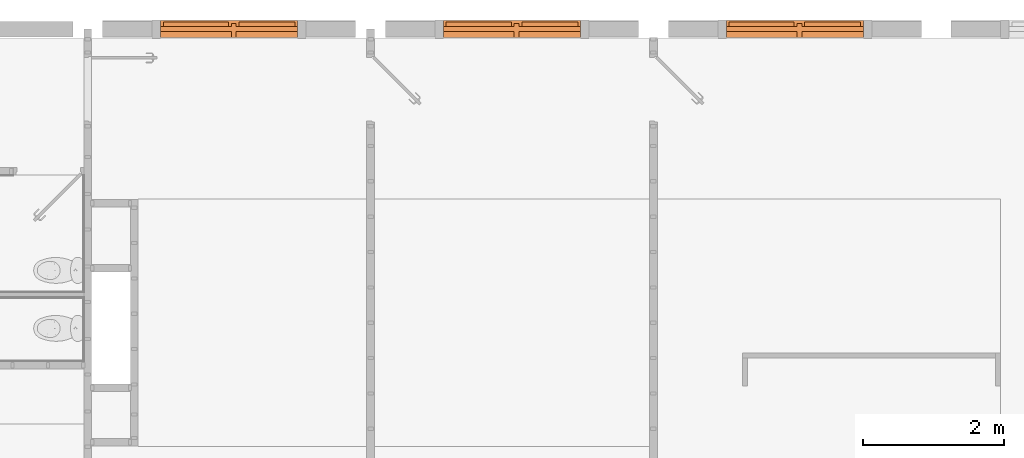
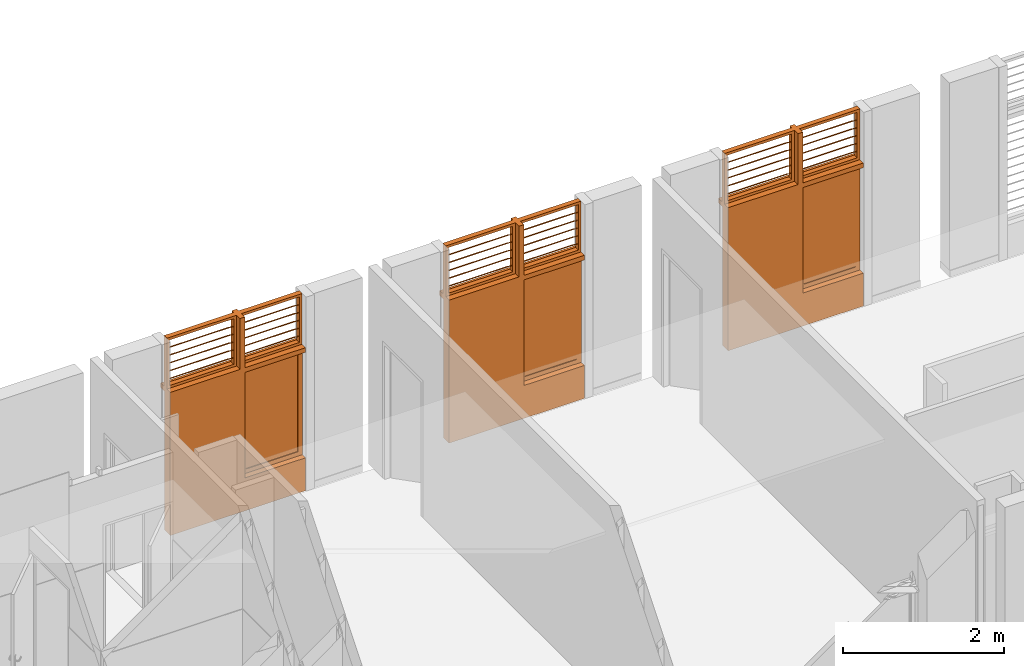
# One storey, part 13 of 15: 3 proxies.
"""IFC2X3 building model written with IfcOpenShell, lengths in metres."""

from ifc_helpers import new_model, entity, si_unit, converted_unit, derived_unit, direction, frame, origin, place, context, subcontext, project, spatial, faceted_brep, source, transform, mapped, material, material_list, type_object, type_shapes, element, save


model = new_model("IFC2X3")

# Units and contexts
model_context = context("Model", 3, precision=1e-05, world=origin(), true_north=direction((6.12303176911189e-17, 1.0)))
body_context = subcontext(model_context, "Body", "Model", "MODEL_VIEW")
ifc_project = project(units=[si_unit("LENGTHUNIT", "METRE"), si_unit("AREAUNIT", "SQUARE_METRE"), si_unit("VOLUMEUNIT", "CUBIC_METRE"), converted_unit("PLANEANGLEUNIT", "DEGREE", entity("IfcRatioMeasure", 0.0174532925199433), si_unit("PLANEANGLEUNIT", "RADIAN"), dimensions=[0, 0, 0, 0, 0, 0, 0]), si_unit("MASSUNIT", "GRAM", prefix="KILO"), derived_unit("MASSDENSITYUNIT", [(si_unit("MASSUNIT", "GRAM", prefix="KILO"), 1), (si_unit("LENGTHUNIT", "METRE"), -3)]), si_unit("TIMEUNIT", "SECOND"), si_unit("FREQUENCYUNIT", "HERTZ"), si_unit("THERMODYNAMICTEMPERATUREUNIT", "DEGREE_CELSIUS"), derived_unit("THERMALTRANSMITTANCEUNIT", [(si_unit("MASSUNIT", "GRAM", prefix="KILO"), 1), (si_unit("THERMODYNAMICTEMPERATUREUNIT", "KELVIN"), -1), (si_unit("TIMEUNIT", "SECOND"), -3)]), derived_unit("VOLUMETRICFLOWRATEUNIT", [(si_unit("LENGTHUNIT", "METRE"), 3), (si_unit("TIMEUNIT", "SECOND"), -1)]), si_unit("ELECTRICCURRENTUNIT", "AMPERE"), si_unit("ELECTRICVOLTAGEUNIT", "VOLT"), si_unit("POWERUNIT", "WATT"), si_unit("FORCEUNIT", "NEWTON", prefix="KILO"), si_unit("ILLUMINANCEUNIT", "LUX"), si_unit("LUMINOUSFLUXUNIT", "LUMEN"), si_unit("LUMINOUSINTENSITYUNIT", "CANDELA"), derived_unit("USERDEFINED", [(si_unit("MASSUNIT", "GRAM", prefix="KILO"), -1), (si_unit("LENGTHUNIT", "METRE"), -2), (si_unit("TIMEUNIT", "SECOND"), 3), (si_unit("LUMINOUSFLUXUNIT", "LUMEN"), 1)]), derived_unit("LINEARVELOCITYUNIT", [(si_unit("LENGTHUNIT", "METRE"), 1), (si_unit("TIMEUNIT", "SECOND"), -1)]), si_unit("PRESSUREUNIT", "PASCAL"), derived_unit("USERDEFINED", [(si_unit("LENGTHUNIT", "METRE"), -2), (si_unit("MASSUNIT", "GRAM", prefix="KILO"), 1), (si_unit("TIMEUNIT", "SECOND"), -2)])], contexts=[model_context])

# Site, building, storey
site_placement = place(None, origin())
site = spatial("IfcSite", under=ifc_project, at=site_placement, Name="Surface", CompositionType="ELEMENT")
building_placement = place(site_placement, origin())
building = spatial("IfcBuilding", under=site, at=building_placement, Name="ExPREF", CompositionType="ELEMENT")
storey_placement = place(building_placement, frame((0.0, 0.0, 7.83)))
storey = spatial("IfcBuildingStorey", under=building, at=storey_placement, Name="R+2", CompositionType="ELEMENT", Elevation=7.83)

# Proxies
ifc_material_1 = material(Name="AA-Aluminium")
ifc_material_2 = material(Name="AA-vitrage")
ifc_material_3 = material(Name="AA-bois menuiseries")
ifc_material_list_1 = material_list([ifc_material_1, ifc_material_2, ifc_material_3])
ifc_material_list_2 = material_list([ifc_material_1, ifc_material_2, ifc_material_3])
building_element_proxy_type = type_object("IfcBuildingElementProxyType", Name="R+2 porte + fenetre", PredefinedType="NOTDEFINED", material=ifc_material_list_2)
shared_shape = source(origin(), body_context, "Body", "Brep", [
    faceted_brep([(0.139999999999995, 0.113917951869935, 2.87840538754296), (0.139999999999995, 0.0970656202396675, 2.89020551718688), (0.139999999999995, 0.101483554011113, 2.89651498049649), (0.139999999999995, 0.11833588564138, 2.88471485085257), (0.930000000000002, 0.113917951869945, 2.87840538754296), (0.930000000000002, 0.118335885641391, 2.88471485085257), (0.930000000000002, 0.101483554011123, 2.89651498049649), (0.930000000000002, 0.0970656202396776, 2.89020551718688)], [[[0, 1, 2, 3]], [[4, 5, 6, 7]], [[1, 0, 4, 7]], [[2, 1, 7, 6]], [[3, 2, 6, 5]], [[0, 3, 5, 4]]]),
    faceted_brep([(0.139999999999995, 0.114720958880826, 2.87955220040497), (0.139999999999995, 0.117588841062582, 2.88364796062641), (0.139999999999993, 0.223609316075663, 2.80941162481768), (0.139999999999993, 0.220741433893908, 2.80531586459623), (0.930000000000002, 0.114720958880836, 2.87955220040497), (0.93, 0.220741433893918, 2.80531586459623), (0.93, 0.223609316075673, 2.80941162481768), (0.930000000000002, 0.117588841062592, 2.88364796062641)], [[[0, 1, 2, 3]], [[4, 5, 6, 7]], [[1, 0, 4, 7]], [[2, 1, 7, 6]], [[3, 2, 6, 5]], [[0, 3, 5, 4]]]),
    faceted_brep([(-0.930000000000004, 0.113917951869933, 2.87840538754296), (-0.930000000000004, 0.097065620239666, 2.89020551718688), (-0.930000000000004, 0.101483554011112, 2.89651498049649), (-0.930000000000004, 0.118335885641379, 2.88471485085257), (-0.00999999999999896, 0.113917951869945, 2.87840538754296), (-0.00999999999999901, 0.118335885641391, 2.88471485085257), (-0.0099999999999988, 0.101483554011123, 2.89651498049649), (-0.00999999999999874, 0.0970656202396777, 2.89020551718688)], [[[0, 1, 2, 3]], [[4, 5, 6, 7]], [[1, 0, 4, 7]], [[2, 1, 7, 6]], [[3, 2, 6, 5]], [[0, 3, 5, 4]]]),
    faceted_brep([(-0.930000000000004, 0.114720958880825, 2.87955220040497), (-0.930000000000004, 0.11758884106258, 2.88364796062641), (-0.930000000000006, 0.223609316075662, 2.80941162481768), (-0.930000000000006, 0.220741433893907, 2.80531586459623), (-0.00999999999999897, 0.114720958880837, 2.87955220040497), (-0.0100000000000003, 0.220741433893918, 2.80531586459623), (-0.0100000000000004, 0.223609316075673, 2.80941162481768), (-0.009999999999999, 0.117588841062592, 2.88364796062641)], [[[0, 1, 2, 3]], [[4, 5, 6, 7]], [[1, 0, 4, 7]], [[2, 1, 7, 6]], [[3, 2, 6, 5]], [[0, 3, 5, 4]]]),
    faceted_brep([(0.139999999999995, 0.113917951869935, 2.75940538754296), (0.139999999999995, 0.0970656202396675, 2.77120551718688), (0.139999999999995, 0.101483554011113, 2.77751498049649), (0.139999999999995, 0.11833588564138, 2.76571485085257), (0.930000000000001, 0.113917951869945, 2.75940538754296), (0.930000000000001, 0.118335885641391, 2.76571485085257), (0.930000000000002, 0.101483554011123, 2.77751498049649), (0.930000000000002, 0.0970656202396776, 2.77120551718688)], [[[0, 1, 2, 3]], [[4, 5, 6, 7]], [[1, 0, 4, 7]], [[2, 1, 7, 6]], [[3, 2, 6, 5]], [[0, 3, 5, 4]]]),
    faceted_brep([(0.139999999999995, 0.114720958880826, 2.76055220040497), (0.139999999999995, 0.117588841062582, 2.76464796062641), (0.139999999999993, 0.223609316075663, 2.69041162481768), (0.139999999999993, 0.220741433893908, 2.68631586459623), (0.930000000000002, 0.114720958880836, 2.76055220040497), (0.93, 0.220741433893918, 2.68631586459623), (0.93, 0.223609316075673, 2.69041162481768), (0.930000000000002, 0.117588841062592, 2.76464796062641)], [[[0, 1, 2, 3]], [[4, 5, 6, 7]], [[1, 0, 4, 7]], [[2, 1, 7, 6]], [[3, 2, 6, 5]], [[0, 3, 5, 4]]]),
    faceted_brep([(-0.930000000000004, 0.113917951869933, 2.75940538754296), (-0.930000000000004, 0.097065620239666, 2.77120551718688), (-0.930000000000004, 0.101483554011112, 2.77751498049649), (-0.930000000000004, 0.118335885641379, 2.76571485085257), (-0.00999999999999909, 0.113917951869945, 2.75940538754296), (-0.00999999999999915, 0.118335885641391, 2.76571485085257), (-0.00999999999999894, 0.101483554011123, 2.77751498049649), (-0.00999999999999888, 0.0970656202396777, 2.77120551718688)], [[[0, 1, 2, 3]], [[4, 5, 6, 7]], [[1, 0, 4, 7]], [[2, 1, 7, 6]], [[3, 2, 6, 5]], [[0, 3, 5, 4]]]),
    faceted_brep([(-0.930000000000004, 0.114720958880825, 2.76055220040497), (-0.930000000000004, 0.11758884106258, 2.76464796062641), (-0.930000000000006, 0.223609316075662, 2.69041162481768), (-0.930000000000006, 0.220741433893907, 2.68631586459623), (-0.0099999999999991, 0.114720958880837, 2.76055220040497), (-0.0100000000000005, 0.220741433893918, 2.68631586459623), (-0.0100000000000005, 0.223609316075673, 2.69041162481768), (-0.00999999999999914, 0.117588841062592, 2.76464796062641)], [[[0, 1, 2, 3]], [[4, 5, 6, 7]], [[1, 0, 4, 7]], [[2, 1, 7, 6]], [[3, 2, 6, 5]], [[0, 3, 5, 4]]]),
    faceted_brep([(-0.930000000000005, 0.113917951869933, 2.64040538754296), (-0.930000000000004, 0.097065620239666, 2.65220551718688), (-0.930000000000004, 0.101483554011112, 2.65851498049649), (-0.930000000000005, 0.118335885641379, 2.64671485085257), (-0.00999999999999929, 0.113917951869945, 2.64040538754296), (-0.00999999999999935, 0.118335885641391, 2.64671485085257), (-0.00999999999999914, 0.101483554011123, 2.65851498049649), (-0.00999999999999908, 0.0970656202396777, 2.65220551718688)], [[[0, 1, 2, 3]], [[4, 5, 6, 7]], [[1, 0, 4, 7]], [[2, 1, 7, 6]], [[3, 2, 6, 5]], [[0, 3, 5, 4]]]),
    faceted_brep([(-0.930000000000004, 0.114720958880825, 2.64155220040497), (-0.930000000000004, 0.11758884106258, 2.64564796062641), (-0.930000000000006, 0.223609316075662, 2.57141162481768), (-0.930000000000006, 0.220741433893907, 2.56731586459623), (-0.0099999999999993, 0.114720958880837, 2.64155220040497), (-0.0100000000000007, 0.220741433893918, 2.56731586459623), (-0.0100000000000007, 0.223609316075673, 2.57141162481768), (-0.00999999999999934, 0.117588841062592, 2.64564796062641)], [[[0, 1, 2, 3]], [[4, 5, 6, 7]], [[1, 0, 4, 7]], [[2, 1, 7, 6]], [[3, 2, 6, 5]], [[0, 3, 5, 4]]]),
    faceted_brep([(-0.930000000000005, 0.113917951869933, 2.52140538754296), (-0.930000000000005, 0.097065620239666, 2.53320551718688), (-0.930000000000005, 0.101483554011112, 2.53951498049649), (-0.930000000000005, 0.118335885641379, 2.52771485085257), (-0.0099999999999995, 0.113917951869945, 2.52140538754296), (-0.00999999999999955, 0.118335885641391, 2.52771485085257), (-0.00999999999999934, 0.101483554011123, 2.53951498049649), (-0.00999999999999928, 0.0970656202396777, 2.53320551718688)], [[[0, 1, 2, 3]], [[4, 5, 6, 7]], [[1, 0, 4, 7]], [[2, 1, 7, 6]], [[3, 2, 6, 5]], [[0, 3, 5, 4]]]),
    faceted_brep([(-0.930000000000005, 0.114720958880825, 2.52255220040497), (-0.930000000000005, 0.11758884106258, 2.52664796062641), (-0.930000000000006, 0.223609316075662, 2.45241162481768), (-0.930000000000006, 0.220741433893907, 2.44831586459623), (-0.00999999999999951, 0.114720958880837, 2.52255220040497), (-0.0100000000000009, 0.220741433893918, 2.44831586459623), (-0.0100000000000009, 0.223609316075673, 2.45241162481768), (-0.00999999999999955, 0.117588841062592, 2.52664796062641)], [[[0, 1, 2, 3]], [[4, 5, 6, 7]], [[1, 0, 4, 7]], [[2, 1, 7, 6]], [[3, 2, 6, 5]], [[0, 3, 5, 4]]]),
    faceted_brep([(0.139999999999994, 0.113917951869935, 2.64040538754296), (0.139999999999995, 0.0970656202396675, 2.65220551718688), (0.139999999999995, 0.101483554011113, 2.65851498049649), (0.139999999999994, 0.11833588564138, 2.64671485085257), (0.930000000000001, 0.113917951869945, 2.64040538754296), (0.930000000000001, 0.118335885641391, 2.64671485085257), (0.930000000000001, 0.101483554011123, 2.65851498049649), (0.930000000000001, 0.0970656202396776, 2.65220551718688)], [[[0, 1, 2, 3]], [[4, 5, 6, 7]], [[1, 0, 4, 7]], [[2, 1, 7, 6]], [[3, 2, 6, 5]], [[0, 3, 5, 4]]]),
    faceted_brep([(0.139999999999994, 0.114720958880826, 2.64155220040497), (0.139999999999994, 0.117588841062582, 2.64564796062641), (0.139999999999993, 0.223609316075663, 2.57141162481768), (0.139999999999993, 0.220741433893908, 2.56731586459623), (0.930000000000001, 0.114720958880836, 2.64155220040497), (0.93, 0.220741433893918, 2.56731586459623), (0.93, 0.223609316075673, 2.57141162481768), (0.930000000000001, 0.117588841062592, 2.64564796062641)], [[[0, 1, 2, 3]], [[4, 5, 6, 7]], [[1, 0, 4, 7]], [[2, 1, 7, 6]], [[3, 2, 6, 5]], [[0, 3, 5, 4]]]),
    faceted_brep([(0.139999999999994, 0.113917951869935, 2.52140538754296), (0.139999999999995, 0.0970656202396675, 2.53320551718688), (0.139999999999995, 0.101483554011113, 2.53951498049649), (0.139999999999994, 0.11833588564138, 2.52771485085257), (0.930000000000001, 0.113917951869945, 2.52140538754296), (0.930000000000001, 0.118335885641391, 2.52771485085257), (0.930000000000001, 0.101483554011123, 2.53951498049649), (0.930000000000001, 0.0970656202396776, 2.53320551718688)], [[[0, 1, 2, 3]], [[4, 5, 6, 7]], [[1, 0, 4, 7]], [[2, 1, 7, 6]], [[3, 2, 6, 5]], [[0, 3, 5, 4]]]),
    faceted_brep([(0.139999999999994, 0.114720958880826, 2.52255220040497), (0.139999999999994, 0.117588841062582, 2.52664796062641), (0.139999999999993, 0.223609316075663, 2.45241162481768), (0.139999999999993, 0.220741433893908, 2.44831586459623), (0.930000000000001, 0.114720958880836, 2.52255220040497), (0.93, 0.220741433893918, 2.44831586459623), (0.93, 0.223609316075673, 2.45241162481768), (0.930000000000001, 0.117588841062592, 2.52664796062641)], [[[0, 1, 2, 3]], [[4, 5, 6, 7]], [[1, 0, 4, 7]], [[2, 1, 7, 6]], [[3, 2, 6, 5]], [[0, 3, 5, 4]]]),
    faceted_brep([(0.139999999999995, 0.113917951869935, 2.40240538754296), (0.139999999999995, 0.0970656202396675, 2.41420551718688), (0.139999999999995, 0.101483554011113, 2.42051498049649), (0.139999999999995, 0.11833588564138, 2.40871485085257), (0.930000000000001, 0.113917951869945, 2.40240538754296), (0.930000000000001, 0.118335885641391, 2.40871485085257), (0.930000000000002, 0.101483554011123, 2.42051498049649), (0.930000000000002, 0.0970656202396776, 2.41420551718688)], [[[0, 1, 2, 3]], [[4, 5, 6, 7]], [[1, 0, 4, 7]], [[2, 1, 7, 6]], [[3, 2, 6, 5]], [[0, 3, 5, 4]]]),
    faceted_brep([(0.139999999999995, 0.114720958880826, 2.40355220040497), (0.139999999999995, 0.117588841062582, 2.40764796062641), (0.139999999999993, 0.223609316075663, 2.33341162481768), (0.139999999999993, 0.220741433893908, 2.32931586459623), (0.930000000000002, 0.114720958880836, 2.40355220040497), (0.93, 0.220741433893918, 2.32931586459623), (0.93, 0.223609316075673, 2.33341162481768), (0.930000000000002, 0.117588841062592, 2.40764796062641)], [[[0, 1, 2, 3]], [[4, 5, 6, 7]], [[1, 0, 4, 7]], [[2, 1, 7, 6]], [[3, 2, 6, 5]], [[0, 3, 5, 4]]]),
    faceted_brep([(0.139999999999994, 0.113917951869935, 2.28340538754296), (0.139999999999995, 0.0970656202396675, 2.29520551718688), (0.139999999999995, 0.101483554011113, 2.30151498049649), (0.139999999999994, 0.11833588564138, 2.28971485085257), (0.930000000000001, 0.113917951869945, 2.28340538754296), (0.930000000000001, 0.118335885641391, 2.28971485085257), (0.930000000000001, 0.101483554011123, 2.30151498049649), (0.930000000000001, 0.0970656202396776, 2.29520551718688)], [[[0, 1, 2, 3]], [[4, 5, 6, 7]], [[1, 0, 4, 7]], [[2, 1, 7, 6]], [[3, 2, 6, 5]], [[0, 3, 5, 4]]]),
    faceted_brep([(0.139999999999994, 0.114720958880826, 2.28455220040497), (0.139999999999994, 0.117588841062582, 2.28864796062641), (0.139999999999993, 0.223609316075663, 2.21441162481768), (0.139999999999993, 0.220741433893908, 2.21031586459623), (0.930000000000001, 0.114720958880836, 2.28455220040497), (0.93, 0.220741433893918, 2.21031586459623), (0.93, 0.223609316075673, 2.21441162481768), (0.930000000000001, 0.117588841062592, 2.28864796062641)], [[[0, 1, 2, 3]], [[4, 5, 6, 7]], [[1, 0, 4, 7]], [[2, 1, 7, 6]], [[3, 2, 6, 5]], [[0, 3, 5, 4]]]),
    faceted_brep([(-0.930000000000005, 0.113917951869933, 2.40240538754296), (-0.930000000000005, 0.097065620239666, 2.41420551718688), (-0.930000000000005, 0.101483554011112, 2.42051498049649), (-0.930000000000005, 0.118335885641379, 2.40871485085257), (-0.0099999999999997, 0.113917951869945, 2.40240538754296), (-0.00999999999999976, 0.118335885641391, 2.40871485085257), (-0.00999999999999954, 0.101483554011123, 2.42051498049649), (-0.00999999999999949, 0.0970656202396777, 2.41420551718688)], [[[0, 1, 2, 3]], [[4, 5, 6, 7]], [[1, 0, 4, 7]], [[2, 1, 7, 6]], [[3, 2, 6, 5]], [[0, 3, 5, 4]]]),
    faceted_brep([(-0.930000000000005, 0.114720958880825, 2.40355220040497), (-0.930000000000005, 0.11758884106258, 2.40764796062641), (-0.930000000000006, 0.223609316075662, 2.33341162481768), (-0.930000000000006, 0.220741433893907, 2.32931586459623), (-0.00999999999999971, 0.114720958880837, 2.40355220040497), (-0.0100000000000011, 0.220741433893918, 2.32931586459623), (-0.0100000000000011, 0.223609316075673, 2.33341162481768), (-0.00999999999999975, 0.117588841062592, 2.40764796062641)], [[[0, 1, 2, 3]], [[4, 5, 6, 7]], [[1, 0, 4, 7]], [[2, 1, 7, 6]], [[3, 2, 6, 5]], [[0, 3, 5, 4]]]),
    faceted_brep([(-0.930000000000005, 0.113917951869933, 2.28340538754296), (-0.930000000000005, 0.097065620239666, 2.29520551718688), (-0.930000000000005, 0.101483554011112, 2.30151498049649), (-0.930000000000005, 0.118335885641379, 2.28971485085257), (-0.0099999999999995, 0.113917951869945, 2.28340538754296), (-0.00999999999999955, 0.118335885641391, 2.28971485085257), (-0.00999999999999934, 0.101483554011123, 2.30151498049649), (-0.00999999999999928, 0.0970656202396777, 2.29520551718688)], [[[0, 1, 2, 3]], [[4, 5, 6, 7]], [[1, 0, 4, 7]], [[2, 1, 7, 6]], [[3, 2, 6, 5]], [[0, 3, 5, 4]]]),
    faceted_brep([(-0.930000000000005, 0.114720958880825, 2.28455220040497), (-0.930000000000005, 0.11758884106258, 2.28864796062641), (-0.930000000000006, 0.223609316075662, 2.21441162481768), (-0.930000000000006, 0.220741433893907, 2.21031586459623), (-0.00999999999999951, 0.114720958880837, 2.28455220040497), (-0.0100000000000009, 0.220741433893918, 2.21031586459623), (-0.0100000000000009, 0.223609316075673, 2.21441162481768), (-0.00999999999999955, 0.117588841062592, 2.28864796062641)], [[[0, 1, 2, 3]], [[4, 5, 6, 7]], [[1, 0, 4, 7]], [[2, 1, 7, 6]], [[3, 2, 6, 5]], [[0, 3, 5, 4]]]),
    faceted_brep([(0.904999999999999, 0.0900000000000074, 2.03499999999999), (0.164999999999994, 0.0900000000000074, 2.03499999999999), (0.164999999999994, 0.0900000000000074, 0.564999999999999), (0.904999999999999, 0.0900000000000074, 0.564999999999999), (0.904999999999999, 0.110000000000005, 2.03499999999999), (0.904999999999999, 0.110000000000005, 0.564999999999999), (0.164999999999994, 0.110000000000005, 0.564999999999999), (0.164999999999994, 0.110000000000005, 2.03499999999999)], [[[0, 1, 2, 3]], [[4, 5, 6, 7]], [[0, 4, 7, 1]], [[1, 7, 6, 2]], [[2, 6, 5, 3]], [[3, 5, 4, 0]]]),
    faceted_brep([(0.934999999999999, 0.0800000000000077, 2.065), (0.934999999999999, 0.0800000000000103, 0.534999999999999), (0.934999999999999, 0.120000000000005, 0.534999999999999), (0.934999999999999, 0.120000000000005, 2.065), (0.904999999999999, 0.120000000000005, 2.035), (0.904999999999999, 0.120000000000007, 0.564999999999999), (0.904999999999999, 0.0800000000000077, 0.564999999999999), (0.904999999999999, 0.0800000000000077, 2.03499999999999), (0.134999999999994, 0.0800000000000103, 0.534999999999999), (0.134999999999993, 0.120000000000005, 0.534999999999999), (0.164999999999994, 0.120000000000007, 0.564999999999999), (0.164999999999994, 0.0800000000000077, 0.564999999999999), (0.134999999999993, 0.0800000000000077, 2.065), (0.134999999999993, 0.120000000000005, 2.065), (0.164999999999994, 0.120000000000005, 2.035), (0.164999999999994, 0.0800000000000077, 2.03499999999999)], [[[0, 1, 2, 3]], [[4, 5, 6, 7]], [[1, 8, 9, 2]], [[5, 10, 11, 6]], [[8, 12, 13, 9]], [[10, 14, 15, 11]], [[3, 2, 9, 13], [5, 4, 14, 10]], [[12, 0, 3, 13]], [[1, 0, 12, 8], [7, 6, 11, 15]], [[14, 4, 7, 15]]]),
    faceted_brep([(0.969999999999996, 0.140000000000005, 0.500000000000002), (0.969999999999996, 0.139999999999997, 2.09999999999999), (0.969999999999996, 0.080000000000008, 2.09999999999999), (0.969999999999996, 0.080000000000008, 0.500000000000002), (0.919999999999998, 0.120000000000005, 0.549999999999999), (0.919999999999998, 0.119999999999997, 2.05), (0.919999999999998, 0.140000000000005, 2.04999999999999), (0.919999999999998, 0.140000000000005, 0.549999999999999), (0.934999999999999, 0.0800000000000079, 0.534999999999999), (0.934999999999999, 0.08, 2.065), (0.934999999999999, 0.120000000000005, 2.065), (0.934999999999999, 0.120000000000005, 0.534999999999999), (0.099999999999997, 0.139999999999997, 2.09999999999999), (0.0999999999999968, 0.080000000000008, 2.09999999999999), (0.149999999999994, 0.119999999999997, 2.05), (0.149999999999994, 0.140000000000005, 2.04999999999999), (0.134999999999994, 0.08, 2.065), (0.134999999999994, 0.120000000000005, 2.065), (0.0999999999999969, 0.140000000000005, 0.500000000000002), (0.0999999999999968, 0.080000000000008, 0.500000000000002), (0.149999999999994, 0.120000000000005, 0.549999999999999), (0.149999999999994, 0.140000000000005, 0.549999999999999), (0.134999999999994, 0.0800000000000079, 0.534999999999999), (0.134999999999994, 0.120000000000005, 0.534999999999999)], [[[0, 1, 2, 3]], [[4, 5, 6, 7]], [[8, 9, 10, 11]], [[1, 12, 13, 2]], [[5, 14, 15, 6]], [[9, 16, 17, 10]], [[12, 18, 19, 13]], [[14, 20, 21, 15]], [[16, 22, 23, 17]], [[3, 2, 13, 19], [9, 8, 22, 16]], [[18, 0, 3, 19]], [[1, 0, 18, 12], [7, 6, 15, 21]], [[20, 4, 7, 21]], [[5, 4, 20, 14], [11, 10, 17, 23]], [[22, 8, 11, 23]]], outer=[[True], [True], [True], [True], [True], [True], [True], [True], [True], [True, False], [True], [True, False], [True], [False, True], [True]]),
    faceted_brep([(-0.97, 0.155, 2.17), (-0.969999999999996, 0.155, 2.94000000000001), (0.0299999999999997, 0.155, 2.94000000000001), (0.0299999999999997, 0.155, 2.17), (-0.930000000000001, 0.155, 2.21), (-0.0100000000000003, 0.155, 2.21), (-0.0100000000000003, 0.155, 2.90000000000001), (-0.929999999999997, 0.155, 2.90000000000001), (-0.930000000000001, 0.085000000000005, 2.21), (-0.929999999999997, 0.085000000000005, 2.90000000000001), (-0.0100000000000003, 0.085000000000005, 2.90000000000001), (-0.0100000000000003, 0.085000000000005, 2.21), (-0.97, 0.085000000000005, 2.17), (0.0299999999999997, 0.085000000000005, 2.17), (0.0299999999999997, 0.085000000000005, 2.94000000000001), (-0.969999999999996, 0.085000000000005, 2.94000000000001)], [[[0, 1, 2, 3], [4, 5, 6, 7]], [[8, 9, 10, 11], [12, 13, 14, 15]], [[3, 13, 12, 0]], [[4, 8, 11, 5]], [[0, 12, 15, 1]], [[7, 9, 8, 4]], [[2, 14, 13, 3]], [[5, 11, 10, 6]], [[1, 15, 14, 2]], [[6, 10, 9, 7]]], outer=[[True, False], [False, True], [True], [True], [True], [True], [True], [True], [True], [True]]),
    faceted_brep([(0.0999999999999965, 0.155, 2.16999999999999), (0.0999999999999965, 0.155, 2.94), (0.969999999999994, 0.155, 2.94), (0.969999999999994, 0.155, 2.17), (0.139999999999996, 0.155, 2.20999999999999), (0.929999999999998, 0.155, 2.21), (0.929999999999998, 0.155, 2.9), (0.139999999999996, 0.155, 2.9), (0.139999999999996, 0.085000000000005, 2.20999999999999), (0.139999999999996, 0.085000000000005, 2.9), (0.929999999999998, 0.085000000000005, 2.9), (0.929999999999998, 0.085000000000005, 2.21), (0.0999999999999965, 0.085000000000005, 2.16999999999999), (0.969999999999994, 0.085000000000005, 2.17), (0.969999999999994, 0.085000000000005, 2.94), (0.0999999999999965, 0.085000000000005, 2.94)], [[[0, 1, 2, 3], [4, 5, 6, 7]], [[8, 9, 10, 11], [12, 13, 14, 15]], [[3, 13, 12, 0]], [[2, 14, 13, 3]], [[5, 11, 10, 6]], [[4, 8, 11, 5]], [[0, 12, 15, 1]], [[7, 9, 8, 4]], [[1, 15, 14, 2]], [[6, 10, 9, 7]]], outer=[[True, False], [False, True], [True], [True], [True], [True], [True], [True], [True], [True]]),
    faceted_brep([(0.0999999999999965, 0.2, 2.94), (0.0999999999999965, 0.2, 2.17), (0.0299999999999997, 0.2, 2.17), (0.0299999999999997, 0.2, 2.94), (0.0299999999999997, 0.0, 2.94), (0.0999999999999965, 0.0, 2.94), (0.0999999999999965, 0.0, 2.17), (0.0299999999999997, 0.0, 2.17)], [[[0, 1, 2, 3]], [[3, 4, 5, 0]], [[0, 5, 6, 1]], [[2, 7, 4, 3]], [[1, 6, 7, 2]], [[5, 4, 7, 6]]]),
    faceted_brep([(0.0299999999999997, 0.0, 2.1), (0.0299999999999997, 0.0, 0.0), (0.0999999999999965, 0.0, 0.0), (0.0999999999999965, 0.0, 2.1), (0.0299999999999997, 0.2, 0.0), (0.0299999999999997, 0.2, 2.1), (0.0999999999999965, 0.2, 0.0), (0.0999999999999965, 0.2, 2.1)], [[[0, 1, 2, 3]], [[4, 1, 0, 5]], [[6, 2, 1, 4]], [[7, 3, 2, 6]], [[5, 0, 3, 7]], [[5, 7, 6, 4]]]),
    faceted_brep([(-0.0050000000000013, 0.0, 2.065), (-0.0050000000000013, 0.0400000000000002, 2.065), (-0.935000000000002, 0.0400000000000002, 2.065), (-0.935000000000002, 0.0, 2.065), (-0.0050000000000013, 0.0, 0.0), (-0.935000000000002, 0.0, 0.0), (-0.935000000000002, 0.0400000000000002, 0.0), (-0.0050000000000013, 0.0400000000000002, 0.0)], [[[0, 1, 2, 3]], [[4, 5, 6, 7]], [[3, 5, 4, 0]], [[2, 6, 5, 3]], [[1, 7, 6, 2]], [[0, 4, 7, 1]]]),
    faceted_brep([(-0.970000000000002, 0.14, 0.0), (-0.920000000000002, 0.14, 0.0), (-0.920000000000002, 0.0400000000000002, 0.0), (-0.935000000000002, 0.0400000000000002, 0.0), (-0.935000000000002, 0.0, 0.0), (-0.970000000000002, 0.0, 0.0), (-0.969999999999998, 0.0, 2.1), (-0.969999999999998, 0.14, 2.1), (-0.934999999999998, 0.0, 2.065), (-0.004999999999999, 0.0, 2.065), (-0.00500000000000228, 0.0, 0.0), (0.0299999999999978, 0.0, 0.0), (0.0300000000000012, 0.0, 2.1), (-0.934999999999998, 0.0400000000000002, 2.065), (0.0300000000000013, 0.14, 2.1), (0.0299999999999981, 0.14, 0.0), (-0.0200000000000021, 0.140000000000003, 0.0), (-0.0199999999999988, 0.140000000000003, 2.05), (-0.919999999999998, 0.14, 2.05), (-0.004999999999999, 0.0400000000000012, 2.065), (-0.00500000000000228, 0.0400000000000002, 0.0), (-0.0200000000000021, 0.0400000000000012, 0.0), (-0.919999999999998, 0.0400000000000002, 2.05), (-0.0199999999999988, 0.0400000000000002, 2.05)], [[[0, 1, 2, 3, 4, 5]], [[5, 6, 7, 0]], [[4, 8, 9, 10, 11, 12, 6, 5]], [[3, 13, 8, 4]], [[0, 7, 14, 15, 16, 17, 18, 1]], [[6, 12, 14, 7]], [[13, 19, 9, 8]], [[15, 11, 10, 20, 21, 16]], [[2, 22, 23, 21, 20, 19, 13, 3]], [[1, 18, 22, 2]], [[18, 17, 23, 22]], [[12, 11, 15, 14]], [[19, 20, 10, 9]], [[17, 16, 21, 23]]]),
    faceted_brep([(0.970000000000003, 0.140000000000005, 0.0), (0.0999999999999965, 0.140000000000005, 0.0), (0.0999999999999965, 0.140000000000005, 0.500000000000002), (0.970000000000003, 0.140000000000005, 0.500000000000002), (0.970000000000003, 0.0, 0.0), (0.970000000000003, 0.0, 0.500000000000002), (0.0999999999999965, 0.0, 0.500000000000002), (0.0999999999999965, 0.0, 0.0)], [[[0, 1, 2, 3]], [[4, 5, 6, 7]], [[3, 5, 4, 0]], [[2, 6, 5, 3]], [[1, 7, 6, 2]], [[0, 4, 7, 1]]]),
    faceted_brep([(0.97, 0.24, 2.09999999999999), (-0.97, 0.24, 2.1), (-0.97, 0.24, 2.17), (0.970000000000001, 0.24, 2.16999999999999), (0.97, 0.0, 2.09999999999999), (0.97, 0.0, 2.16999999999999), (-0.970000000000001, 0.0, 2.17), (-0.97, 0.0, 2.1)], [[[0, 1, 2, 3]], [[4, 5, 6, 7]], [[3, 5, 4, 0]], [[1, 7, 6, 2]], [[0, 4, 7, 1]], [[2, 6, 5, 3]]]),
])
type_shapes(building_element_proxy_type, [shared_shape])
proxy_1_placement = place(storey_placement, frame((59.4897436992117, -185.17648794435, 0.0)))
element("IfcBuildingElementProxy", 1, at=proxy_1_placement, inside=storey, type_object=building_element_proxy_type, material=ifc_material_list_1, Name="R+2 porte + fenetre:R+2 porte + fenetre", ObjectType="R+2 porte + fenetre", context=body_context, shape_type="MappedRepresentation", body=[
    mapped(shared_shape, transform((0.0, 0.0, 0.0), scale=1.0)),
])
ifc_material_list_3 = material_list([ifc_material_1, ifc_material_2, ifc_material_3])
proxy_2_placement = place(storey_placement, frame((55.4897436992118, -185.17648794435, 0.0)))
element("IfcBuildingElementProxy", 2, at=proxy_2_placement, inside=storey, type_object=building_element_proxy_type, material=ifc_material_list_3, Name="R+2 porte + fenetre:R+2 porte + fenetre", ObjectType="R+2 porte + fenetre", context=body_context, shape_type="MappedRepresentation", body=[
    mapped(shared_shape, transform((0.0, 0.0, 0.0), scale=1.0)),
])
ifc_material_list_4 = material_list([ifc_material_1, ifc_material_2, ifc_material_3])
proxy_3_placement = place(storey_placement, frame((51.4897436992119, -185.17648794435, 0.0)))
element("IfcBuildingElementProxy", 3, at=proxy_3_placement, inside=storey, type_object=building_element_proxy_type, material=ifc_material_list_4, Name="R+2 porte + fenetre:R+2 porte + fenetre", ObjectType="R+2 porte + fenetre", context=body_context, shape_type="MappedRepresentation", body=[
    mapped(shared_shape, transform((0.0, 0.0, 0.0), scale=1.0)),
])

save(model, "model.ifc")
